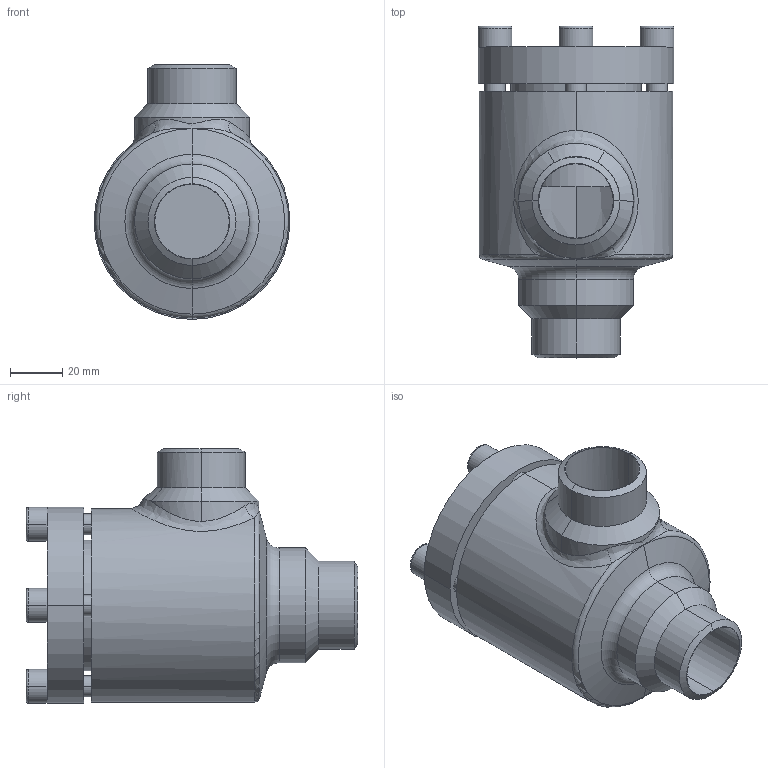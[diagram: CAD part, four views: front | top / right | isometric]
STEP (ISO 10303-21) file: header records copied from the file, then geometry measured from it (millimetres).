
FILE_DESCRIPTION (( 'STEP AP214' ), '1' );
FILE_NAME ('RV28400D12-DN025_R1_PS40.STEP', '2006-04-28T05:25:56', ( 'Herr Grams' ), ( 'AWP GmbH' ), 'SwSTEP 2.0', 'SolidWorks 2002296', '' );
FILE_SCHEMA (( 'AUTOMOTIVE_DESIGN' ));
Length unit declared in the file: millimetre
Products named in the file (5): RV28400D12-DN025_R1_PS40; Gehäuse16400-DN025_Standard; RV28300E13_Deck+Schr-DN25-32_Standard; Zylinderschraube-DIN912_M 8x 25; Deckel28300E13-DN25-32_Standard
Assembly tree (7 placements, depth 3):
  RV28400D12-DN025_R1_PS40
    Gehäuse16400-DN025_Standard
    RV28300E13_Deck+Schr-DN25-32_Standard
      Zylinderschraube-DIN912_M 8x 25  x4
      Deckel28300E13-DN25-32_Standard
Bounding box: 75 x 127 x 97.5 mm (x, y, z)
Volume: 287631.2 mm3; surface area: 68198.4 mm2
Topology: 6 solids, 6 shells, 139 faces, 301 edges, 187 vertices
Faces by surface type: plane 52, cylinder 51, cone 21, torus 12, bspline 3
Entity records: 12571 total; most frequent: CARTESIAN_POINT 10161, DIRECTION 455, ORIENTED_EDGE 374, AXIS2_PLACEMENT_3D 192, EDGE_CURVE 187, VERTEX_POINT 115, EDGE_LOOP 104, CIRCLE 99
